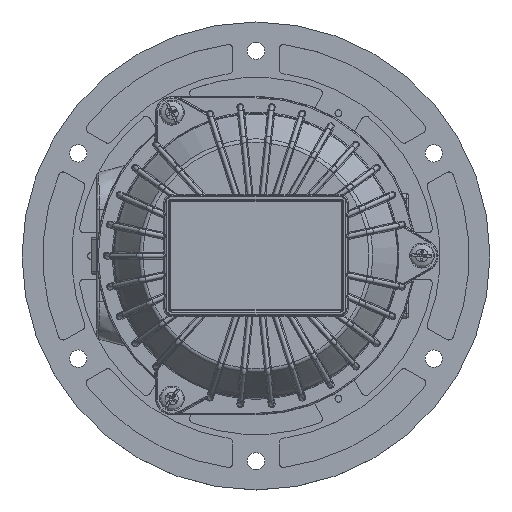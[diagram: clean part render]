
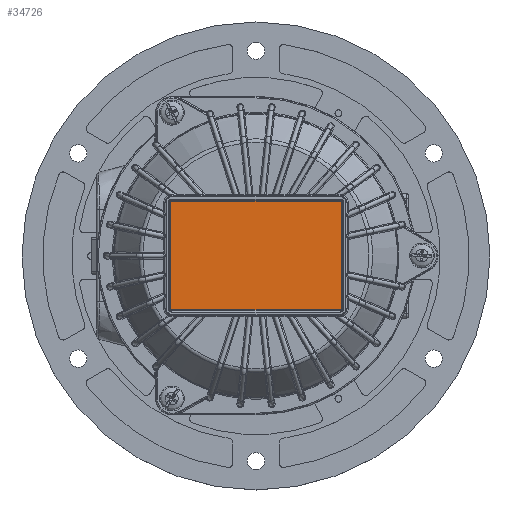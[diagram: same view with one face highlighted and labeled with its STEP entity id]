
A CAD part, top view. The second image highlights one B-rep face of the part: STEP entity #34726.
In plain terms, the highlighted planar face has unit normal (0, 0, 1).
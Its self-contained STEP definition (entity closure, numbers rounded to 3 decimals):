
#5136=PLANE('',#37932);
#7283=FACE_OUTER_BOUND('',#9473,.T.);
#9473=EDGE_LOOP('',(#29891,#29892,#29893,#29894,#29895,#29896,#29897,#29898));
#11148=LINE('',#76339,#12480);
#11150=LINE('',#76359,#12482);
#11152=LINE('',#76379,#12484);
#11154=LINE('',#76396,#12486);
#12480=VECTOR('',#45137,10.);
#12482=VECTOR('',#45149,10.);
#12484=VECTOR('',#45161,10.);
#12486=VECTOR('',#45171,10.);
#14333=CIRCLE('',#37907,0.5);
#14339=CIRCLE('',#37914,0.5);
#14343=CIRCLE('',#37919,0.5);
#14347=CIRCLE('',#37924,0.5);
#17273=VERTEX_POINT('',#76327);
#17274=VERTEX_POINT('',#76329);
#17276=VERTEX_POINT('',#76335);
#17278=VERTEX_POINT('',#76349);
#17280=VERTEX_POINT('',#76355);
#17282=VERTEX_POINT('',#76369);
#17284=VERTEX_POINT('',#76375);
#17286=VERTEX_POINT('',#76389);
#21734=EDGE_CURVE('',#17273,#17274,#14333,.T.);
#21739=EDGE_CURVE('',#17274,#17276,#11148,.T.);
#21742=EDGE_CURVE('',#17276,#17278,#14339,.T.);
#21745=EDGE_CURVE('',#17278,#17280,#11150,.T.);
#21748=EDGE_CURVE('',#17280,#17282,#14343,.T.);
#21751=EDGE_CURVE('',#17282,#17284,#11152,.T.);
#21754=EDGE_CURVE('',#17284,#17286,#14347,.T.);
#21756=EDGE_CURVE('',#17286,#17273,#11154,.T.);
#29891=ORIENTED_EDGE('',*,*,#21734,.F.);
#29892=ORIENTED_EDGE('',*,*,#21756,.F.);
#29893=ORIENTED_EDGE('',*,*,#21754,.F.);
#29894=ORIENTED_EDGE('',*,*,#21751,.F.);
#29895=ORIENTED_EDGE('',*,*,#21748,.F.);
#29896=ORIENTED_EDGE('',*,*,#21745,.F.);
#29897=ORIENTED_EDGE('',*,*,#21742,.F.);
#29898=ORIENTED_EDGE('',*,*,#21739,.F.);
#34726=ADVANCED_FACE('',(#7283),#5136,.T.);
#37907=AXIS2_PLACEMENT_3D('',#76330,#45126,#45127);
#37914=AXIS2_PLACEMENT_3D('',#76353,#45142,#45143);
#37919=AXIS2_PLACEMENT_3D('',#76373,#45154,#45155);
#37924=AXIS2_PLACEMENT_3D('',#76393,#45166,#45167);
#37932=AXIS2_PLACEMENT_3D('',#76415,#45191,#45192);
#45126=DIRECTION('center_axis',(0.,0.,
-1.));
#45127=DIRECTION('ref_axis',(0.707,0.707,0.));
#45137=DIRECTION('',(0.,-1.,0.));
#45142=DIRECTION('center_axis',(0.,0.,
-1.));
#45143=DIRECTION('ref_axis',(0.707,-0.707,0.));
#45149=DIRECTION('',(-1.,0.,0.));
#45154=DIRECTION('center_axis',(0.,0.,
-1.));
#45155=DIRECTION('ref_axis',(-0.707,-0.707,0.));
#45161=DIRECTION('',(0.,1.,0.));
#45166=DIRECTION('center_axis',(0.,0.,
-1.));
#45167=DIRECTION('ref_axis',(-0.707,0.707,0.));
#45171=DIRECTION('',(1.,0.,0.));
#45191=DIRECTION('center_axis',(0.,0.,
1.));
#45192=DIRECTION('ref_axis',(1.,0.,0.));
#76327=CARTESIAN_POINT('',(36.5,23.5,25.5));
#76329=CARTESIAN_POINT('',(37.,23.,25.5));
#76330=CARTESIAN_POINT('Origin',(36.5,23.,25.5));
#76335=CARTESIAN_POINT('',(37.,-23.,25.5));
#76339=CARTESIAN_POINT('',(37.,-11.5,25.5));
#76349=CARTESIAN_POINT('',(36.5,-23.5,25.5));
#76353=CARTESIAN_POINT('Origin',(36.5,-23.,25.5));
#76355=CARTESIAN_POINT('',(-36.5,-23.5,25.5));
#76359=CARTESIAN_POINT('',(-18.25,-23.5,25.5));
#76369=CARTESIAN_POINT('',(-37.,-23.,25.5));
#76373=CARTESIAN_POINT('Origin',(-36.5,-23.,25.5));
#76375=CARTESIAN_POINT('',(-37.,23.,25.5));
#76379=CARTESIAN_POINT('',(-37.,11.5,25.5));
#76389=CARTESIAN_POINT('',(-36.5,23.5,25.5));
#76393=CARTESIAN_POINT('Origin',(-36.5,23.,25.5));
#76396=CARTESIAN_POINT('',(18.25,23.5,25.5));
#76415=CARTESIAN_POINT('Origin',(0.,0.,
25.5));
